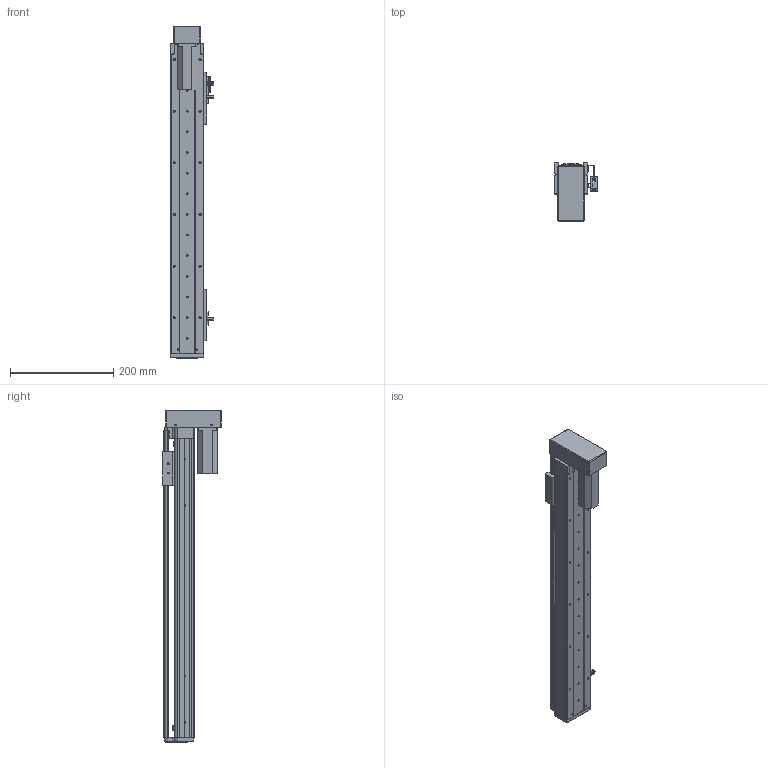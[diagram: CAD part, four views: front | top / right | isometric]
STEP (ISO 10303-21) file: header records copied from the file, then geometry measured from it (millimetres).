
FILE_DESCRIPTION (( 'STEP AP203' ), '1' );
FILE_NAME ('RY60-L1210-300-BK.SLDASM_450.step', '2021-02-20T06:42:13', ( '盈信电脑' ), ( '东莞市道滘镇水果街19号' ), 'SwSTEP 2.0', 'SolidWorks 2012', '' );
FILE_SCHEMA (( 'CONFIG_CONTROL_DESIGN' ));
Length unit declared in the file: millimetre
Products named in the file (13): RY60狟殏萇儂欶100W; 滅袉蝶18-10; 侂狟100W; RY60-L1210-300-BK.SLDASM_450; RY80俋离覜茼え; 覜茼ん672; RY60转折电机端支撑座; RY60狟殏萇儂假蚾啣; RY60臏賑輸; 672嫖萇羲壽假蚾釱; RY60-300倰第裔啣-BK_450; RY60綴裔啣; RY60-300倰第菁釱-BK_450
Assembly tree (18 placements, depth 2):
  RY60-L1210-300-BK.SLDASM_450
    RY60-300倰第菁釱-BK_450
    RY60臏賑輸
    RY60-300倰第裔啣-BK_450
    672嫖萇羲壽假蚾釱  x2
    RY60綴裔啣
    覜茼ん672  x3
    RY80俋离覜茼え
    RY60转折电机端支撑座
    RY60狟殏萇儂假蚾啣
    侂狟100W
    RY60狟殏萇儂欶100W
    滅袉蝶18-10  x4
Bounding box: 83.7 x 113.5 x 643 mm (x, y, z)
Volume: 865325.4 mm3; surface area: 433508.7 mm2
Topology: 18 solids, 18 shells, 1428 faces, 3986 edges, 2554 vertices
Faces by surface type: plane 711, cylinder 594, cone 106, bspline 17
Entity records: 42501 total; most frequent: CARTESIAN_POINT 10021, ORIENTED_EDGE 6544, DIRECTION 6356, EDGE_CURVE 3272, AXIS2_PLACEMENT_3D 2179, VERTEX_POINT 2134, LINE 1998, VECTOR 1998
